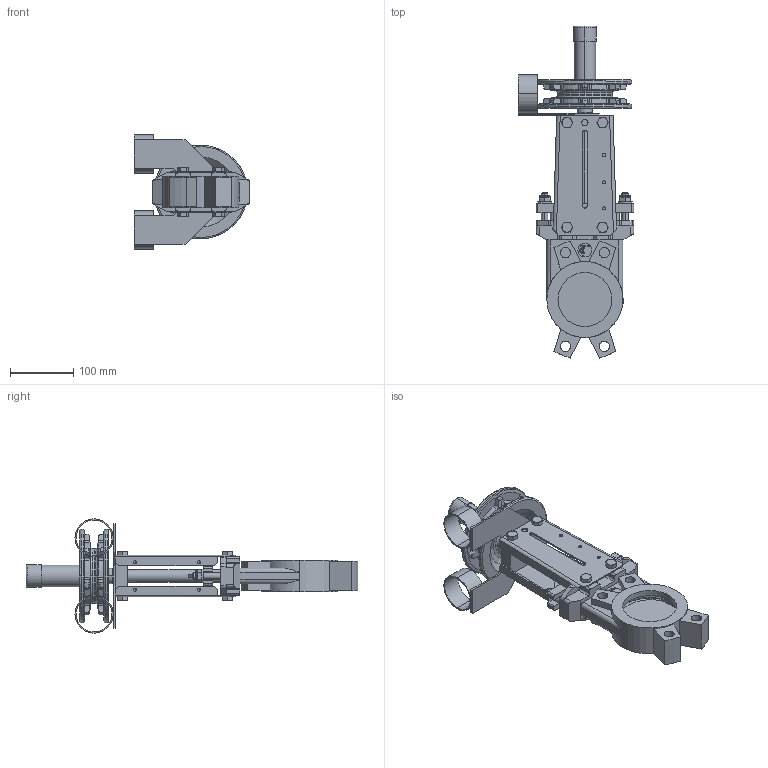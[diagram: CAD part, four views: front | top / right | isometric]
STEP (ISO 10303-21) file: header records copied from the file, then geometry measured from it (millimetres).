
FILE_DESCRIPTION (( 'STEP AP203' ), '1' );
FILE_NAME ('VG C DN80.STEP', '2010-01-25T08:18:54', ( 'farex' ), ( '' ), 'SwSTEP 2.0', 'SolidWorks 2009', '' );
FILE_SCHEMA (( 'CONFIG_CONTROL_DESIGN' ));
Length unit declared in the file: millimetre
Products named in the file (1): VG C DN80
Bounding box: 182 x 523.67 x 180.3 mm (x, y, z)
Volume: 1559944.2 mm3; surface area: 408637 mm2
Topology: 6 solids, 6 shells, 881 faces, 2366 edges, 1545 vertices
Faces by surface type: plane 384, cylinder 241, cone 160, bspline 78, torus 18
Entity records: 32800 total; most frequent: CARTESIAN_POINT 11174, ORIENTED_EDGE 4732, DIRECTION 4217, EDGE_CURVE 2366, AXIS2_PLACEMENT_3D 1558, VERTEX_POINT 1545, VECTOR 1101, LINE 1101
